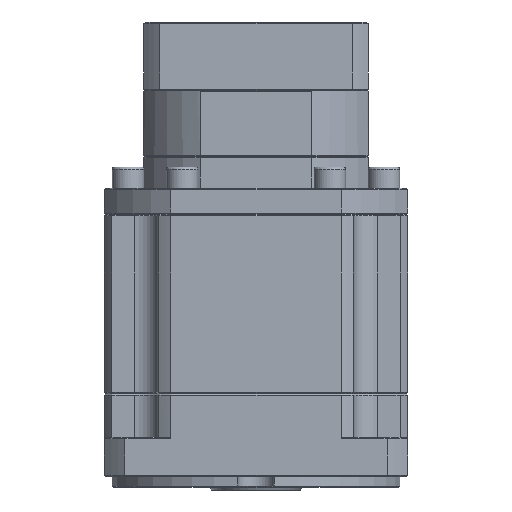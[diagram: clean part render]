
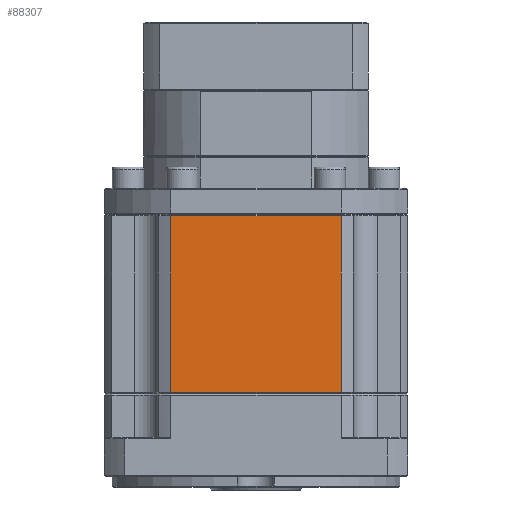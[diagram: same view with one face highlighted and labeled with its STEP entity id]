
A CAD part, front view. The second image highlights one B-rep face of the part: STEP entity #88307.
In plain terms, the highlighted planar face has unit normal (0, -1, 0).
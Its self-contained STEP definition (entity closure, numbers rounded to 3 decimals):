
#3480 = ORIENTED_EDGE ( 'NONE', *, *, #39438, .F. ) ;
#11660 = DIRECTION ( 'NONE',  ( 0., 1., 0. ) ) ;
#11881 = CARTESIAN_POINT ( 'NONE',  ( 25.436, 19.159, -46.376 ) ) ;
#13551 = VERTEX_POINT ( 'NONE', #93811 ) ;
#23817 = VECTOR ( 'NONE', #55730, 1000. ) ;
#25561 = CARTESIAN_POINT ( 'NONE',  ( 90.235, 19.159, -113.876 ) ) ;
#30178 = CARTESIAN_POINT ( 'NONE',  ( 57.835, 19.159, -46.876 ) ) ;
#36335 = ORIENTED_EDGE ( 'NONE', *, *, #97790, .F. ) ;
#39181 = CARTESIAN_POINT ( 'NONE',  ( 90.235, 19.159, -46.376 ) ) ;
#39201 = DIRECTION ( 'NONE',  ( 1., 0., 0. ) ) ;
#39438 = EDGE_CURVE ( 'NONE', #76581, #93198, #55165, .T. ) ;
#40829 = AXIS2_PLACEMENT_3D ( 'NONE', #65271, #11660, #74198 ) ;
#44749 = VECTOR ( 'NONE', #57631, 1000. ) ;
#49318 = EDGE_LOOP ( 'NONE', ( #87173, #100879, #3480, #36335 ) ) ;
#55165 = LINE ( 'NONE', #30178, #84407 ) ;
#55260 = VECTOR ( 'NONE', #74424, 1000. ) ;
#55730 = DIRECTION ( 'NONE',  ( -1., 0., 0. ) ) ;
#57631 = DIRECTION ( 'NONE',  ( 0., 0., -1. ) ) ;
#65271 = CARTESIAN_POINT ( 'NONE',  ( 115.335, 19.159, -46.376 ) ) ;
#74198 = DIRECTION ( 'NONE',  ( -1., 0., 0. ) ) ;
#74424 = DIRECTION ( 'NONE',  ( 0., 0., 1. ) ) ;
#76581 = VERTEX_POINT ( 'NONE', #96151 ) ;
#79237 = VERTEX_POINT ( 'NONE', #25561 ) ;
#84407 = VECTOR ( 'NONE', #39201, 1000. ) ;
#87173 = ORIENTED_EDGE ( 'NONE', *, *, #110114, .F. ) ;
#88307 = ADVANCED_FACE ( 'NONE', ( #105744 ), #98995, .F. ) ;
#92138 = LINE ( 'NONE', #39181, #44749 ) ;
#92264 = LINE ( 'NONE', #108950, #23817 ) ;
#93198 = VERTEX_POINT ( 'NONE', #114378 ) ;
#93811 = CARTESIAN_POINT ( 'NONE',  ( 25.436, 19.159, -113.876 ) ) ;
#96151 = CARTESIAN_POINT ( 'NONE',  ( 25.436, 19.159, -46.876 ) ) ;
#97790 = EDGE_CURVE ( 'NONE', #13551, #76581, #102479, .T. ) ;
#98995 = PLANE ( 'NONE',  #40829 ) ;
#99864 = EDGE_CURVE ( 'NONE', #93198, #79237, #92138, .T. ) ;
#100879 = ORIENTED_EDGE ( 'NONE', *, *, #99864, .F. ) ;
#102479 = LINE ( 'NONE', #11881, #55260 ) ;
#105744 = FACE_OUTER_BOUND ( 'NONE', #49318, .T. ) ;
#108950 = CARTESIAN_POINT ( 'NONE',  ( 115.335, 19.159, -113.876 ) ) ;
#110114 = EDGE_CURVE ( 'NONE', #79237, #13551, #92264, .T. ) ;
#114378 = CARTESIAN_POINT ( 'NONE',  ( 90.235, 19.159, -46.876 ) ) ;
